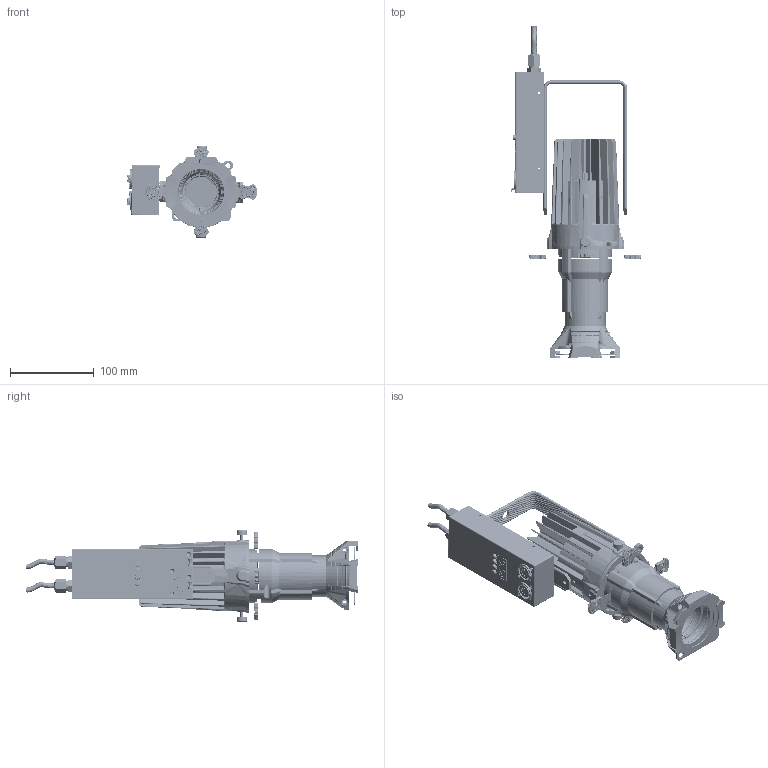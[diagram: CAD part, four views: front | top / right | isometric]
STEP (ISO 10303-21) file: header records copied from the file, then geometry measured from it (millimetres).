
FILE_DESCRIPTION((''),'2;1');
FILE_NAME('X40_ASM','2025-04-02T17:14:26',('ALY'),(''),'CREO PARAMETRIC BY PTC INC, 2022164','CREO PARAMETRIC BY PTC INC, 2022164','');
FILE_SCHEMA(('AUTOMOTIVE_DESIGN { 1 0 10303 214 1 1 1 1 }'));
Products named in the file (24): XK-13_X40_2__X40; XH-S_X40_2__X40; QG-D_X40_2__X40; XN-4_X40_2__X40; DOCUMENT_X40_2__X40; SK-145_X40_2__X40; ZHONGGAI-A_368_X40_2__X40; DK-G_X40_2__X40; QIANG-B_651_X40_2__X40; SB-S7_X40_2__X40; _X2_5716584A_X0__01_LZ-16_X40_2; LZ-16_X40_2__X40_ASM; ZHONGGAI-B_3510_X40_2__X40; QP-M_X40_2__X40; XSB-50_X40_2__X40; SPJ-206_X40_2__X40; DK-D_X40_2__X40; YAB-M_X40_2__X40; GS-25_X40_2__X40; LIANJIEJIAN20211122XIN_X40_2__X; QIANG-A_365_X40_2__X40; X40_2__X40_ASM; X40_1_ASM; X40_ASM
Assembly tree (34 placements, depth 5):
  X40_ASM
    X40_1_ASM
      X40_2__X40_ASM
        XK-13_X40_2__X40  x2
        XH-S_X40_2__X40  x2
        QG-D_X40_2__X40  x2
        XN-4_X40_2__X40  x2
        DOCUMENT_X40_2__X40
        SK-145_X40_2__X40
        ZHONGGAI-A_368_X40_2__X40
        DK-G_X40_2__X40
        QIANG-B_651_X40_2__X40
        SB-S7_X40_2__X40  x4
        LZ-16_X40_2__X40_ASM  x2
          _X2_5716584A_X0__01_LZ-16_X40_2
        ZHONGGAI-B_3510_X40_2__X40
        QP-M_X40_2__X40  x4
        XSB-50_X40_2__X40
        SPJ-206_X40_2__X40
        DK-D_X40_2__X40
        YAB-M_X40_2__X40
        GS-25_X40_2__X40
        LIANJIEJIAN20211122XIN_X40_2__X
        QIANG-A_365_X40_2__X40
Bounding box: 155.57 x 395.5 x 109.12 mm (x, y, z)
Volume: 227269.8 mm3; surface area: 363402.2 mm2
Topology: 27 solids, 36 shells, 8711 faces, 22854 edges, 14310 vertices
Faces by surface type: cylinder 2645, bspline 2000, plane 1826, torus 1501, cone 514, sphere 225
Entity records: 287843 total; most frequent: CARTESIAN_POINT 142582, ORIENTED_EDGE 33057, DIRECTION 26658, EDGE_CURVE 16554, AXIS2_PLACEMENT_3D 10662, VERTEX_POINT 10516, EDGE_LOOP 6367, FACE_OUTER_BOUND 6149
